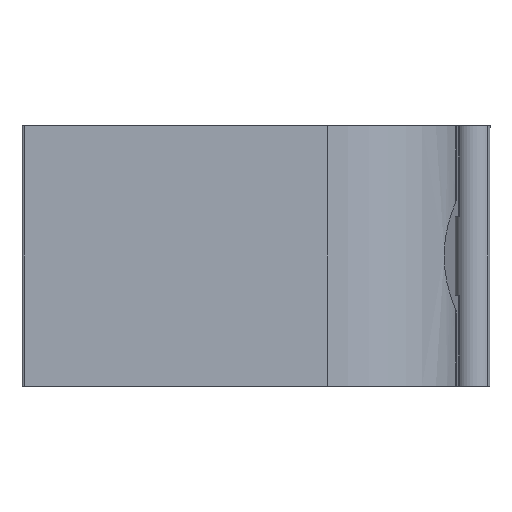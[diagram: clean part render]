
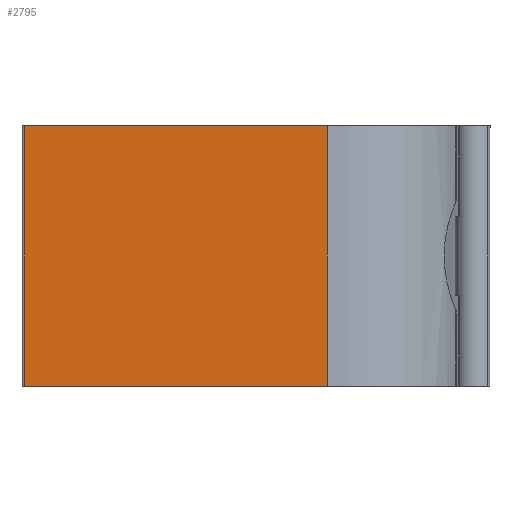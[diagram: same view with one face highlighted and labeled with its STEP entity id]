
A CAD part, front view. The second image highlights one B-rep face of the part: STEP entity #2795.
In plain terms, the highlighted planar face has unit normal (0, -1, 0).
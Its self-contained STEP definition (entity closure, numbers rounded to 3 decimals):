
#513=DIRECTION('',(0.,0.,-1.));
#514=VECTOR('',#513,30.04);
#515=CARTESIAN_POINT('',(-4.975,-48.066,15.02));
#516=LINE('',#515,#514);
#1052=DIRECTION('',(1.,0.,0.));
#1053=VECTOR('',#1052,34.911);
#1054=CARTESIAN_POINT('',(-39.886,-48.066,15.02));
#1055=LINE('',#1054,#1053);
#1515=DIRECTION('',(1.,0.,0.));
#1516=VECTOR('',#1515,34.911);
#1517=CARTESIAN_POINT('',(-39.886,-48.066,-15.02));
#1518=LINE('',#1517,#1516);
#1529=DIRECTION('',(0.,0.,1.));
#1530=VECTOR('',#1529,30.04);
#1531=CARTESIAN_POINT('',(-39.886,-48.066,-15.02));
#1532=LINE('',#1531,#1530);
#1744=CARTESIAN_POINT('',(-4.975,-48.066,-15.02));
#1746=VERTEX_POINT('',#1744);
#1747=CARTESIAN_POINT('',(-39.886,-48.066,-15.02));
#1748=VERTEX_POINT('',#1747);
#1793=CARTESIAN_POINT('',(-39.886,-48.066,15.02));
#1794=VERTEX_POINT('',#1793);
#1795=CARTESIAN_POINT('',(-4.975,-48.066,15.02));
#1796=VERTEX_POINT('',#1795);
#2783=CARTESIAN_POINT('',(-4.975,-48.066,-15.02));
#2784=DIRECTION('',(0.,1.,0.));
#2785=DIRECTION('',(0.,0.,1.));
#2786=AXIS2_PLACEMENT_3D('',#2783,#2784,#2785);
#2787=PLANE('',#2786);
#2788=ORIENTED_EDGE('',*,*,#2342,.F.);
#2790=ORIENTED_EDGE('',*,*,#2789,.T.);
#2791=ORIENTED_EDGE('',*,*,#2445,.T.);
#2792=ORIENTED_EDGE('',*,*,#2198,.T.);
#2793=EDGE_LOOP('',(#2788,#2790,#2791,#2792));
#2794=FACE_OUTER_BOUND('',#2793,.F.);
#2198=EDGE_CURVE('',#1796,#1746,#516,.T.);
#2342=EDGE_CURVE('',#1748,#1746,#1518,.T.);
#2445=EDGE_CURVE('',#1794,#1796,#1055,.T.);
#2789=EDGE_CURVE('',#1748,#1794,#1532,.T.);
#2795=ADVANCED_FACE('',(#2794),#2787,.F.);
